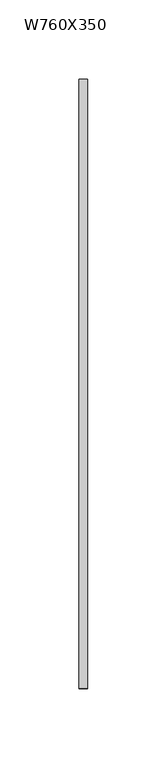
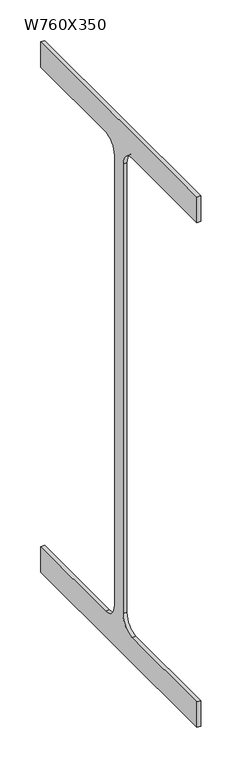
"""IFC4 building model written with IfcOpenShell, lengths in millimetres: beam geometry, M_W-Wide Flange : W760X350."""

from ifc_helpers import new_model, si_unit, point, frame, frame_2d, origin, place, context, project, spatial, polyline, circle_curve, trimmed, segment, composite_curve, outline, extrude, source, transform, mapped, element, save


def w760x350_66d51d2f(model_context):
    return source(origin(), model_context, "Body", "SweptSolid", [
        extrude(outline(composite_curve([segment(polyline([(-192.0, -359.4), (-32.75, -359.4)]), True, "CONTINUOUS"), segment(trimmed(circle_curve(frame_2d((-32.75, -337.2)), 22.2), [point((-32.75, -359.4))], [point((-10.55, -337.2))], True, "CARTESIAN"), True, "CONTINUOUS"), segment(polyline([(-10.55, -337.2), (-10.55, 337.2)]), True, "CONTINUOUS"), segment(trimmed(circle_curve(frame_2d((-32.75, 337.2)), 22.2), [point((-10.55, 337.2))], [point((-32.75, 359.4))], True, "CARTESIAN"), True, "CONTINUOUS"), segment(polyline([(-32.75, 359.4), (-192.0, 359.4), (-192.0, 397.5), (192.0, 397.5), (192.0, 359.4), (32.75, 359.4)]), True, "CONTINUOUS"), segment(trimmed(circle_curve(frame_2d((32.75, 337.2)), 22.2), [point((32.75, 359.4))], [point((10.55, 337.2))], True, "CARTESIAN"), True, "CONTINUOUS"), segment(polyline([(10.55, 337.2), (10.55, -337.2)]), True, "CONTINUOUS"), segment(trimmed(circle_curve(frame_2d((32.75, -337.2)), 22.2), [point((10.55, -337.2))], [point((32.75, -359.4))], True, "CARTESIAN"), True, "CONTINUOUS"), segment(polyline([(32.75, -359.4), (192.0, -359.4), (192.0, -397.5), (-192.0, -397.5), (-192.0, -359.4)]), True, "CONTINUOUS")], self_intersect=False)), frame((-2.7177273, 0.0, 0.0), z_axis=(1.0, 0.0, 0.0), x_axis=(0.0, 1.0, 0.0)), (0.0, 0.0, 1.0), 5.4354545),
    ])


if __name__ == "__main__":
    model = new_model("IFC4")
    model_context = context("Model", 3, world=origin())
    ifc_project = project(units=[si_unit("LENGTHUNIT", "METRE", prefix="MILLI")], contexts=[model_context])
    site = spatial("IfcSite", under=ifc_project)
    building = spatial("IfcBuilding", under=site)
    placement = place(None, origin())
    w760x350_shape = w760x350_66d51d2f(model_context)
    element("IfcBeam", 1, ObjectType="M_W-Wide Flange : W760X350", at=placement, inside=building, context=model_context, shape_type="MappedRepresentation", body=[
        mapped(w760x350_shape, transform((0.0, 0.0, 0.0), x_axis=(1.0, 0.0, 0.0), y_axis=(0.0, 1.0, 0.0), z_axis=(0.0, 0.0, 1.0))),
    ])
    save(model, "model.ifc")
